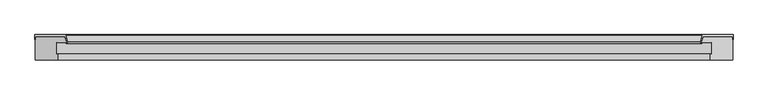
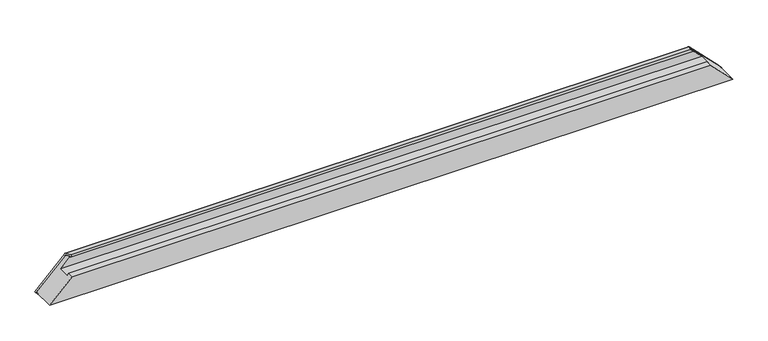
"""IFC4 building model written with IfcOpenShell, lengths in millimetres: proxy geometry, Weiku - Montante - Caixilho 02.2.01.005 : Weiku - Montante - Caixilho 02.2.01.005."""

from ifc_helpers import new_model, si_unit, frame, origin, place, context, project, spatial, polyline, ellipse_curve, source, transform, mapped, element, save
from ifc_brep_helpers import plane_surface, cylinder_surface, revolved_surface, advanced_brep


def generic_models_26620849(model_context):
    return source(origin(), model_context, "Body", "AdvancedBrep", [
        advanced_brep(
        [(682.9663236, 4.0, 64.0336764), (682.0003978, 3.258819, 64.9996022), (678.1863753, -10.9753067, 68.8136247), (680.8909676, -14.5, 66.1090324), (680.8909676, -12.5, 66.1090324), (680.118227, -11.4929448, 66.881773), (682.6019557, -2.2235429, 64.3980443), (685.4997332, 0.0, 61.5002668), (747.0, 0.0, 0.0), (747.0, -6.4862095, 0.0), (748.0, -6.4862095, -1.0), (748.0, 4.0, -1.0), (-748.0, 4.0, -1.0), (-748.0, -6.4862095, -1.0), (-747.0, -6.4862095, 0.0), (-747.0, 0.0, 0.0), (-685.4997332, 0.0, 61.5002668), (-682.6019557, -2.2235429, 64.3980443), (-680.118227, -11.4929448, 66.881773), (-680.8909676, -12.5, 66.1090324), (-680.8909676, -14.5, 66.1090324), (-678.1863753, -10.9753067, 68.8136247), (-682.0003978, 3.258819, 64.9996022), (-682.9663236, 4.0, 64.0336764)],
        [
            (0, 1, ellipse_curve(frame((682.9663236, 3.0, 64.0336764), z_axis=(0.7071067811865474, 0.0, 0.7071067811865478), x_axis=(-0.7071067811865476, 0.0, 0.7071067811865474)), 1.4142136, 1.0)),
            (1, 2),
            (2, 3, ellipse_curve(frame((680.8909676, -11.7, 66.1090324), z_axis=(0.7071067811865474, 0.0, 0.7071067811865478), x_axis=(-0.7071067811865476, 0.0, 0.7071067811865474)), 3.959798, 2.8)),
            (3, 4),
            (4, 5, ellipse_curve(frame((680.8909676, -11.7, 66.1090324), z_axis=(-0.7071067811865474, 0.0, -0.7071067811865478), x_axis=(0.7071067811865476, 0.0, -0.7071067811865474)), 1.1313708, 0.8)),
            (5, 6),
            (6, 7, ellipse_curve(frame((685.4997332, -3.0, 61.5002668), z_axis=(-0.7071067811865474, 0.0, -0.7071067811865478), x_axis=(0.7071067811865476, 0.0, -0.7071067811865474)), 4.2426407, 3.0)),
            (7, 8),
            (8, 9),
            (9, 10),
            (10, 11),
            (11, 0),
            (12, 13),
            (13, 14),
            (14, 15),
            (15, 16),
            (16, 17, ellipse_curve(frame((-685.4997332, -3.0, 61.5002668), z_axis=(0.707106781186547, 0.0, -0.707106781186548), x_axis=(0.7071067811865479, 0.0, 0.707106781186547)), 4.2426407, 3.0)),
            (17, 18),
            (18, 19, ellipse_curve(frame((-680.8909676, -11.7, 66.1090324), z_axis=(0.707106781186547, 0.0, -0.707106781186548), x_axis=(0.7071067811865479, 0.0, 0.707106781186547)), 1.1313708, 0.8)),
            (19, 20),
            (20, 21, ellipse_curve(frame((-680.8909676, -11.7, 66.1090324), z_axis=(-0.707106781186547, 0.0, 0.707106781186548), x_axis=(-0.7071067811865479, 0.0, -0.707106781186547)), 3.959798, 2.8)),
            (21, 22),
            (22, 23, ellipse_curve(frame((-682.9663236, 3.0, 64.0336764), z_axis=(-0.707106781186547, 0.0, 0.707106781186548), x_axis=(-0.7071067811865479, 0.0, -0.707106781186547)), 1.4142136, 1.0)),
            (23, 12),
            (11, 12),
            (23, 0),
            (22, 1),
            (21, 2),
            (20, 3),
            (19, 4),
            (18, 5),
            (17, 6),
            (16, 7),
            (15, 8),
            (14, 9),
            (13, 10),
        ],
        [
            plane_surface(frame((677.0, 15.0, 70.0), z_axis=(0.7071067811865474, 0.0, 0.7071067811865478), x_axis=(0.0, -1.0, 0.0))),
            plane_surface(frame((-817.0, 15.0, -70.0), z_axis=(-0.707106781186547, 0.0, 0.707106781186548), x_axis=(0.0, -1.0, 0.0))),
            plane_surface(frame((-749.8284271, 4.0, -1.0), z_axis=(0.0, 1.0, 0.0), x_axis=(1.0, 0.0, 0.0))),
            cylinder_surface(frame((-749.8284271, 3.0, 64.0336764), z_axis=(-1.0, 0.0, 0.0), x_axis=(0.0, -1.0, 0.0)), 1.0),
            plane_surface(frame((-749.8284271, 3.258819, 64.9996022), z_axis=(0.0, 0.25881904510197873, 0.9659258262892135), x_axis=(1.0, 0.0, 0.0))),
            cylinder_surface(frame((-749.8284271, -11.7, 66.1090324), z_axis=(-1.0, 0.0, 0.0), x_axis=(0.0, -1.0, 0.0)), 2.8),
            plane_surface(frame((-749.8284271, -14.5, 66.1090324), z_axis=(0.0, 0.0, -1.0), x_axis=(1.0, 0.0, 0.0))),
            revolved_surface(polyline([(681.6909675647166, -12.5, 66.1090324), (-681.6909675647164, -12.5, 66.1090324)]), (-749.8284271, -11.7, 66.1090324), (1.0, 0.0, 0.0)),
            plane_surface(frame((-749.8284271, -11.4929448, 66.881773), z_axis=(0.0, -0.2588190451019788, -0.9659258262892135), x_axis=(1.0, 0.0, 0.0))),
            revolved_surface(polyline([(688.4997332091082, -6.0, 61.5002668), (-688.4997332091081, -6.0, 61.5002668)]), (-749.8284271, -3.0, 61.5002668), (1.0, 0.0, 0.0)),
            plane_surface(frame((-749.8284271, 0.0, 61.5002668), z_axis=(0.0, -1.0, 0.0), x_axis=(1.0, 0.0, 0.0))),
            plane_surface(frame((-749.8284271, 0.0, 0.0), z_axis=(0.0, 0.0, 1.0), x_axis=(1.0, 0.0, 0.0))),
            plane_surface(frame((-749.8284271, -6.4862095, 0.0), z_axis=(0.0, -1.0, 0.0), x_axis=(1.0, 0.0, 0.0))),
            plane_surface(frame((-749.8284271, -6.4862095, -1.0), z_axis=(0.0, 0.0, -1.0), x_axis=(1.0, 0.0, 0.0))),
        ],
        [
            (0, [[1, 2, 3, 4, 5, 6, 7, 8, 9, 10, 11, 12]]),
            (1, [[13, 14, 15, 16, 17, 18, 19, 20, 21, 22, 23, 24]]),
            (2, [[25, -24, 26, -12]]),
            (3, [[-26, -23, 27, -1]]),
            (4, [[-27, -22, 28, -2]]),
            (5, [[-28, -21, 29, -3]]),
            (6, [[-29, -20, 30, -4]]),
            (7, [[-30, -19, 31, -5]]),
            (8, [[-31, -18, 32, -6]]),
            (9, [[-32, -17, 33, -7]]),
            (10, [[-33, -16, 34, -8]]),
            (11, [[-34, -15, 35, -9]]),
            (12, [[-35, -14, 36, -10]]),
            (13, [[-36, -13, -25, -11]]),
        ],
    ),
        advanced_brep(
        [(-701.0, -12.5, 46.0), (701.0, -12.5, 46.0), (680.8909676, -12.5, 66.1090324), (-680.8909676, -12.5, 66.1090324), (-701.0, -37.8314286, 46.0), (701.0, -37.8314286, 46.0), (-698.0, -37.027581, 49.0), (698.0, -37.027581, 49.0), (-698.0, -50.0, 49.0), (698.0, -50.0, 49.0), (747.0, -50.0, 0.0), (-747.0, -50.0, 0.0), (-747.0, 0.0, 0.0), (747.0, 0.0, 0.0), (-685.4997332, 0.0, 61.5002668), (685.4997332, 0.0, 61.5002668), (-680.118227, -11.4929448, 66.881773), (680.118227, -11.4929448, 66.881773), (682.6019557, -2.2235429, 64.3980443), (-682.6019557, -2.2235429, 64.3980443)],
        [
            (0, 1),
            (1, 2),
            (2, 3),
            (3, 0),
            (4, 5),
            (5, 1),
            (0, 4),
            (6, 7),
            (7, 5),
            (4, 6),
            (8, 9),
            (9, 7),
            (6, 8),
            (10, 9),
            (8, 11),
            (11, 10),
            (11, 12),
            (12, 13),
            (13, 10),
            (12, 14),
            (14, 15),
            (15, 13),
            (16, 17),
            (17, 18),
            (18, 19),
            (19, 16),
            (3, 16, ellipse_curve(frame((-680.8909676, -11.7, 66.1090324), z_axis=(-0.707106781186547, 0.0, 0.707106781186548), x_axis=(-0.7071067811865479, 0.0, -0.707106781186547)), 1.1313708, 0.8)),
            (19, 14, ellipse_curve(frame((-685.4997332, -3.0, 61.5002668), z_axis=(-0.707106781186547, 0.0, 0.707106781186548), x_axis=(-0.7071067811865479, 0.0, -0.707106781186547)), 4.2426407, 3.0)),
            (15, 18, ellipse_curve(frame((685.4997332, -3.0, 61.5002668), z_axis=(0.7071067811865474, 0.0, 0.7071067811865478), x_axis=(-0.7071067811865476, 0.0, 0.7071067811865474)), 4.2426407, 3.0)),
            (17, 2, ellipse_curve(frame((680.8909676, -11.7, 66.1090324), z_axis=(0.7071067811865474, 0.0, 0.7071067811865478), x_axis=(-0.7071067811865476, 0.0, 0.7071067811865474)), 1.1313708, 0.8)),
        ],
        [
            plane_surface(frame((-747.0, -12.5, 66.1090324), z_axis=(0.0, -1.0, 0.0), x_axis=(1.0, 0.0, 0.0))),
            plane_surface(frame((-747.0, -12.5, 46.0), z_axis=(0.0, 0.0, 1.0), x_axis=(1.0, 0.0, 0.0))),
            plane_surface(frame((-747.0, -37.8314286, 46.0), z_axis=(0.0, 0.9659258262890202, -0.2588190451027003), x_axis=(1.0, 0.0, 0.0))),
            plane_surface(frame((-747.0, -37.027581, 49.0), z_axis=(0.0, 0.0, 1.0), x_axis=(1.0, 0.0, 0.0))),
            plane_surface(frame((-747.0, -50.0, 49.0), z_axis=(0.0, -1.0, 0.0), x_axis=(1.0, 0.0, 0.0))),
            plane_surface(frame((-747.0, -50.0, 0.0), z_axis=(0.0, 0.0, -1.0), x_axis=(1.0, 0.0, 0.0))),
            plane_surface(frame((-747.0, 0.0, 0.0), z_axis=(0.0, 1.0, 0.0), x_axis=(1.0, 0.0, 0.0))),
            plane_surface(frame((-747.0, -2.2235429, 64.3980443), z_axis=(0.0, 0.2588190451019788, 0.9659258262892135), x_axis=(1.0, 0.0, 0.0))),
            plane_surface(frame((-817.0, 15.0, -70.0), z_axis=(-0.707106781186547, 0.0, 0.707106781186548), x_axis=(0.0, -1.0, 0.0))),
            plane_surface(frame((677.0, 15.0, 70.0), z_axis=(0.7071067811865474, 0.0, 0.7071067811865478), x_axis=(0.0, -1.0, 0.0))),
            cylinder_surface(frame((-747.0, -11.7, 66.1090324), z_axis=(-1.0, 0.0, 0.0), x_axis=(0.0, -1.0, 0.0)), 0.8),
            cylinder_surface(frame((-747.0, -3.0, 61.5002668), z_axis=(-1.0, 0.0, 0.0), x_axis=(0.0, -1.0, 0.0)), 3.0),
        ],
        [
            (0, [[1, 2, 3, 4]]),
            (1, [[5, 6, -1, 7]]),
            (2, [[8, 9, -5, 10]]),
            (3, [[11, 12, -8, 13]]),
            (4, [[14, -11, 15, 16]]),
            (5, [[17, 18, 19, -16]]),
            (6, [[20, 21, 22, -18]]),
            (7, [[23, 24, 25, 26]]),
            (8, [[27, -26, 28, -20, -17, -15, -13, -10, -7, -4]]),
            (9, [[-6, -9, -12, -14, -19, -22, 29, -24, 30, -2]]),
            (10, [[-3, -30, -23, -27]]),
            (11, [[-25, -29, -21, -28]]),
        ],
    ),
    ])


if __name__ == "__main__":
    model = new_model("IFC4")
    model_context = context("Model", 3, world=origin())
    ifc_project = project(units=[si_unit("LENGTHUNIT", "METRE", prefix="MILLI")], contexts=[model_context])
    site = spatial("IfcSite", under=ifc_project)
    building = spatial("IfcBuilding", under=site)
    placement = place(None, origin())
    generic_models_shape = generic_models_26620849(model_context)
    element("IfcBuildingElementProxy", 1, Name="Weiku - Montante - Caixilho 02.2.01.005 : Weiku - Montante - Caixilho 02.2.01.005", ObjectType="Weiku - Montante - Caixilho 02.2.01.005 : Weiku - Montante - Caixilho 02.2.01.005", at=placement, inside=building, context=model_context, shape_type="MappedRepresentation", body=[
        mapped(generic_models_shape, transform((0.0, 0.0, 0.0), x_axis=(1.0, 0.0, 0.0), y_axis=(0.0, 1.0, 0.0), z_axis=(0.0, 0.0, 1.0))),
    ])
    save(model, "model.ifc")
